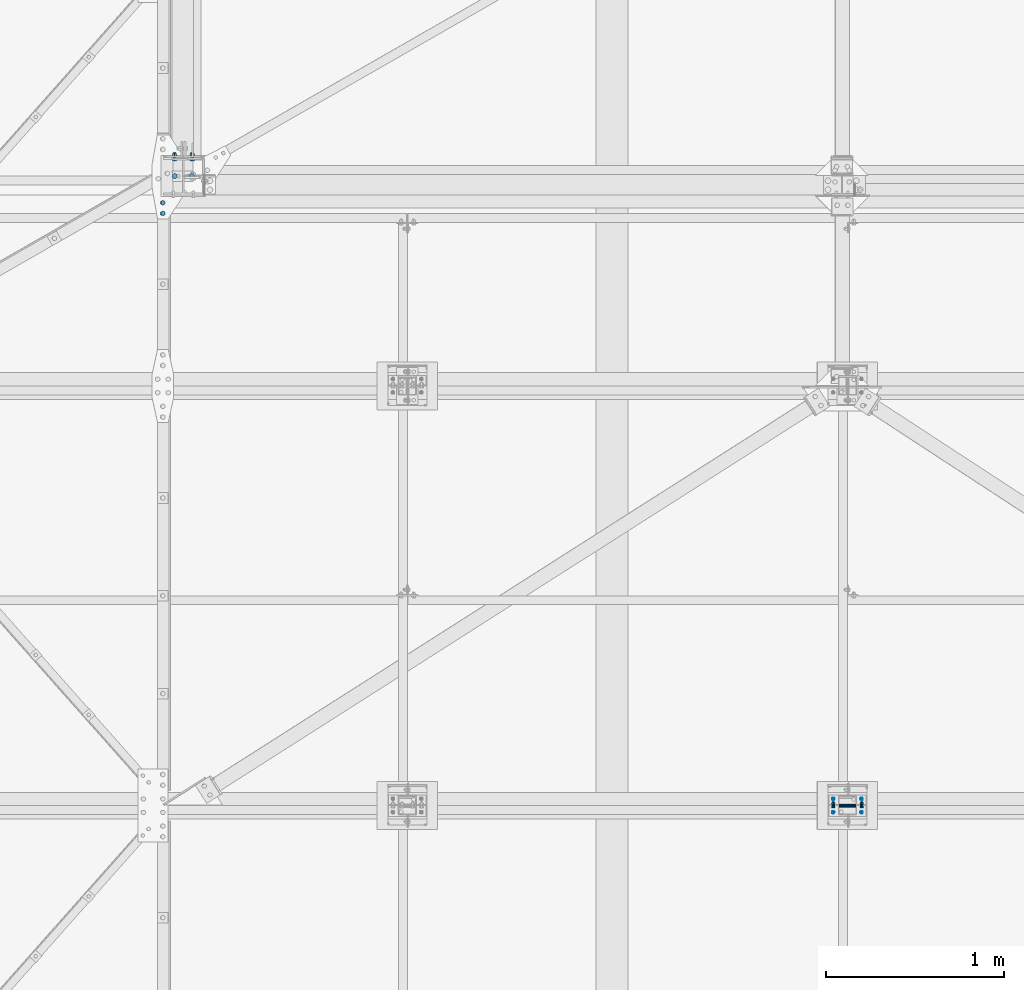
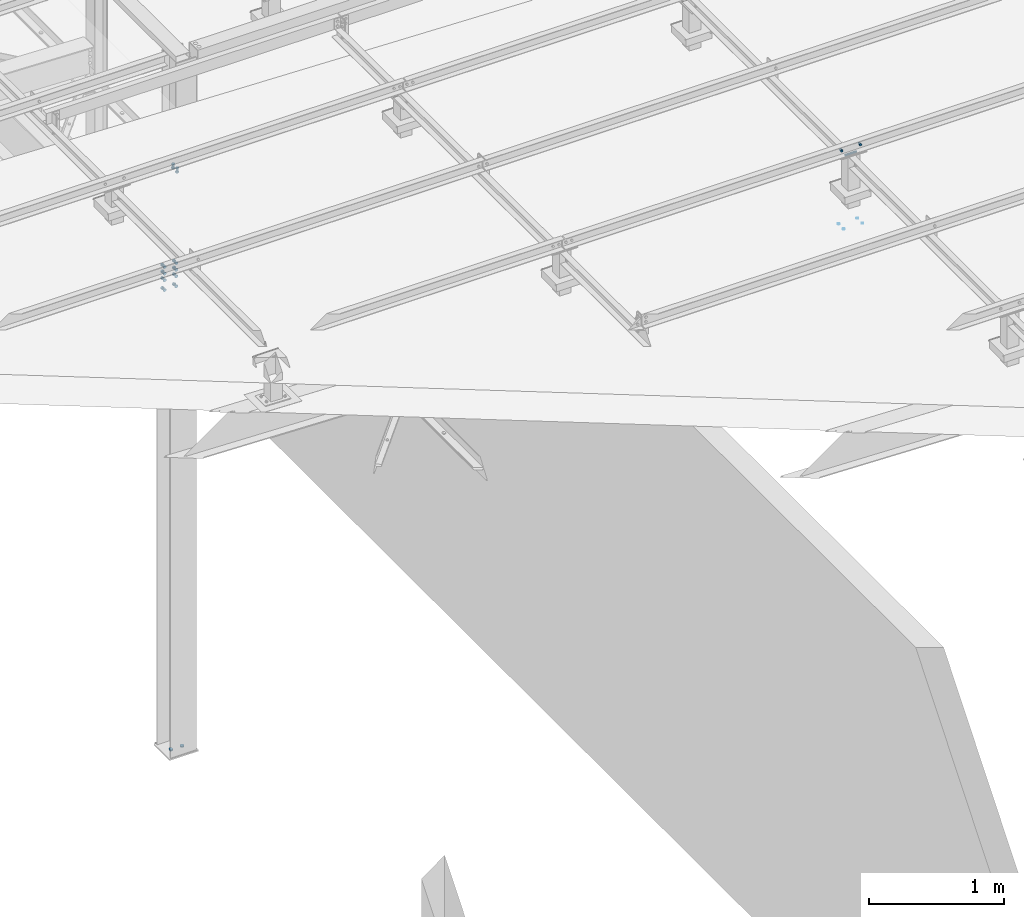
# One storey, part 335 of 3134: 7 mechanical fasteners, 5 elements without a shape of their own.
"""IFC2X3 building model written with IfcOpenShell, lengths in millimetres."""

from ifc_helpers import new_model, si_unit, frame, origin_with_axes, place, context, subcontext, project, spatial, faceted_brep, source, transform, mapped, material, type_object, element, aggregate, save


model = new_model("IFC2X3")

# Units and contexts
model_context = context("Model", 3, precision=1e-05, world=origin_with_axes())
body_context = subcontext(model_context, "Body", "Model", "MODEL_VIEW")
ifc_project = project(units=[si_unit("LENGTHUNIT", "METRE", prefix="MILLI"), si_unit("AREAUNIT", "SQUARE_METRE"), si_unit("VOLUMEUNIT", "CUBIC_METRE"), si_unit("MASSUNIT", "GRAM", prefix="KILO"), si_unit("TIMEUNIT", "SECOND"), si_unit("PLANEANGLEUNIT", "RADIAN"), si_unit("SOLIDANGLEUNIT", "STERADIAN"), si_unit("THERMODYNAMICTEMPERATUREUNIT", "DEGREE_CELSIUS"), si_unit("LUMINOUSINTENSITYUNIT", "LUMEN")], contexts=[model_context])

# Site, building, storey
site_placement = place(None, origin_with_axes())
site = spatial("IfcSite", under=ifc_project, at=site_placement, CompositionType="ELEMENT")
building_placement = place(site_placement, origin_with_axes())
building = spatial("IfcBuilding", under=site, at=building_placement, Name="Undefined", CompositionType="ELEMENT")
storey_placement = place(building_placement, origin_with_axes())
storey = spatial("IfcBuildingStorey", under=building, at=storey_placement, Name="Undefined", CompositionType="ELEMENT", Elevation=0.0)

# Assembly, mechanical fastener
assembly_1_placement = place(storey_placement, origin_with_axes())
assembly_1 = element("IfcElementAssembly", 1, at=assembly_1_placement, inside=storey, Name="HEA220", AssemblyPlace="NOTDEFINED", PredefinedType="RIGID_FRAME")
ifc_material = material(Name="8.8")
mechanical_fastener_type = type_object("IfcMechanicalFastenerType", Name="Bolt assembly")
shared_shape_1 = source(origin_with_axes(), body_context, "Body", "Brep", [
    faceted_brep([(13.0, 0.0, 0.0), (11.2583302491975, 0.0, 6.50000000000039), (6.49999999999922, 0.0, 11.2583302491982), (-1.34723677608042e-12, 0.0, 13.0), (-6.50000000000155, 0.0, 11.2583302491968), (-11.2583302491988, 0.0, 6.49999999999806), (-13.0, 0.0, -2.69447355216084e-12), (-11.2583302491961, 0.0, -6.50000000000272), (-6.4999999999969, 0.0, -11.2583302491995), (4.02727742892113e-12, 0.0, -13.0), (6.50000000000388, 0.0, -11.2583302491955), (11.2583302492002, 0.0, -6.49999999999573), (11.2583302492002, 12.1, -6.49999999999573), (6.50000000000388, 12.1, -11.2583302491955), (4.02727742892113e-12, 12.1, -13.0), (-6.4999999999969, 12.1, -11.2583302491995), (-11.2583302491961, 12.1, -6.50000000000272), (-13.0, 12.1, -2.69447355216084e-12), (-11.2583302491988, 12.1, 6.49999999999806), (-6.50000000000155, 12.1, 11.2583302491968), (-1.34723677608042e-12, 12.1, 13.0), (6.49999999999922, 12.1, 11.2583302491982), (11.2583302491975, 12.1, 6.50000000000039), (13.0, 12.1, 0.0)], [[[0, 1, 2, 3, 4, 5, 6, 7, 8, 9, 10, 11]], [[12, 13, 14, 15, 16, 17, 18, 19, 20, 21, 22, 23]], [[0, 23, 22, 1]], [[1, 22, 21, 2]], [[2, 21, 20, 3]], [[3, 20, 19, 4]], [[4, 19, 18, 5]], [[5, 18, 17, 6]], [[6, 17, 16, 7]], [[7, 16, 15, 8]], [[8, 15, 14, 9]], [[9, 14, 13, 10]], [[10, 13, 12, 11]], [[11, 12, 23, 0]]]),
])
mechanical_fastener_1_placement = place(assembly_1_placement, frame((71815.0, 13550.0, -400.0), z_axis=(1.0, 0.0, 0.0), x_axis=(0.0, 1.0, 0.0)))
mechanical_fastener_1 = element("IfcMechanicalFastener", 2, at=mechanical_fastener_1_placement, type_object=mechanical_fastener_type, material=ifc_material, Name="Bolt assembly", NominalDiameter=24.0, NominalLength=12.0, context=body_context, shape_type="MappedRepresentation", body=[
    mapped(shared_shape_1, transform((0.0, 0.0, -48.0))),
    mapped(shared_shape_1, transform((0.0, 0.0, 48.0))),
])

assembly_2_placement = place(storey_placement, origin_with_axes())
assembly_2 = element("IfcElementAssembly", 3, at=assembly_2_placement, inside=storey, AssemblyPlace="NOTDEFINED", PredefinedType="RIGID_FRAME")
shared_shape_2 = source(origin_with_axes(), body_context, "Body", "Brep", [
    faceted_brep([(7.0, 13.0000253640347, 0.0), (6.06217782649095, 13.0000253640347, 3.50000000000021), (3.49999999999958, 13.0000253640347, 6.06217782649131), (-7.25435187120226e-13, 13.0000253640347, 7.0), (-3.50000000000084, 13.0000253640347, 6.06217782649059), (-6.06217782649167, 13.0000253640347, 3.49999999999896), (-7.0, 13.0000253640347, -1.45087037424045e-12), (-6.06217782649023, 13.0000253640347, -3.50000000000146), (-3.49999999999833, 13.0000253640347, -6.06217782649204), (2.1685340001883e-12, 13.0000253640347, -7.0), (3.50000000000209, 13.0000253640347, -6.06217782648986), (6.0621778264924, 13.0000253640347, -3.4999999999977), (6.0621778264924, 15.0999999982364, -3.4999999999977), (3.50000000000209, 15.0999999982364, -6.06217782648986), (2.1685340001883e-12, 15.0999999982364, -7.0), (-3.49999999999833, 15.0999999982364, -6.06217782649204), (-6.06217782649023, 15.0999999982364, -3.50000000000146), (-7.0, 15.0999999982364, -1.45087037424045e-12), (-6.06217782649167, 15.0999999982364, 3.49999999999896), (-3.50000000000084, 15.0999999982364, 6.06217782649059), (-7.25435187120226e-13, 15.0999999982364, 7.0), (3.49999999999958, 15.0999999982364, 6.06217782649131), (6.06217782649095, 15.0999999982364, 3.50000000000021), (7.0, 15.0999999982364, 0.0)], [[[0, 1, 2, 3, 4, 5, 6, 7, 8, 9, 10, 11]], [[12, 13, 14, 15, 16, 17, 18, 19, 20, 21, 22, 23]], [[0, 23, 22, 1]], [[1, 22, 21, 2]], [[2, 21, 20, 3]], [[3, 20, 19, 4]], [[4, 19, 18, 5]], [[5, 18, 17, 6]], [[6, 17, 16, 7]], [[7, 16, 15, 8]], [[8, 15, 14, 9]], [[9, 14, 13, 10]], [[10, 13, 12, 11]], [[11, 12, 23, 0]]]),
])
mechanical_fastener_2_placement = place(assembly_2_placement, frame((75549.3451187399, 10048.0, 5179.0072055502), z_axis=(-0.99951962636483, 0.0, 0.0309922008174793), x_axis=(0.0, -1.0, 0.0)))
mechanical_fastener_2 = element("IfcMechanicalFastener", 4, at=mechanical_fastener_2_placement, type_object=mechanical_fastener_type, material=ifc_material, Name="Bolt assembly", NominalDiameter=12.0, NominalLength=2.0, context=body_context, shape_type="MappedRepresentation", body=[
    mapped(shared_shape_2, transform((0.0, -5.32963895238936e-10, -79.9999999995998))),
    mapped(shared_shape_2, transform((76.0, -5.32963895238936e-10, -79.9999999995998))),
    mapped(shared_shape_2, transform((0.0, 5.3114490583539e-10, 79.9999999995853))),
    mapped(shared_shape_2, transform((76.0, 5.3114490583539e-10, 79.9999999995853))),
])
aggregate(assembly_2, [mechanical_fastener_2])

assembly_3_placement = place(storey_placement, origin_with_axes())
assembly_3 = element("IfcElementAssembly", 5, at=assembly_3_placement, inside=storey, AssemblyPlace="NOTDEFINED", PredefinedType="RIGID_FRAME")
shared_shape_3 = source(origin_with_axes(), body_context, "Body", "Brep", [
    faceted_brep([(9.0, -50.0, 0.0), (7.79422863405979, -50.0, 4.50000000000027), (4.49999999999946, -50.0, 7.79422863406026), (-9.3270238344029e-13, -50.0, 9.0), (-4.50000000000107, -50.0, 7.79422863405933), (-7.79422863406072, -50.0, 4.49999999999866), (-9.0, -50.0, -1.86540476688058e-12), (-7.79422863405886, -50.0, -4.50000000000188), (-4.49999999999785, -50.0, -7.79422863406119), (2.78811514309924e-12, -50.0, -9.0), (4.50000000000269, -50.0, -7.7942286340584), (7.79422863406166, -50.0, -4.49999999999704), (7.79422863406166, 50.1, -4.49999999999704), (4.50000000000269, 50.1, -7.7942286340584), (2.78811514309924e-12, 50.1, -9.0), (-4.49999999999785, 50.1, -7.79422863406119), (-7.79422863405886, 50.1, -4.50000000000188), (-9.0, 50.1, -1.86540476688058e-12), (-7.79422863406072, 50.1, 4.49999999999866), (-4.50000000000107, 50.1, 7.79422863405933), (-9.3270238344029e-13, 50.1, 9.0), (4.49999999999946, 50.1, 7.79422863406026), (7.79422863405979, 50.1, 4.50000000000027), (9.0, 50.1, 0.0)], [[[0, 1, 2, 3, 4, 5, 6, 7, 8, 9, 10, 11]], [[12, 13, 14, 15, 16, 17, 18, 19, 20, 21, 22, 23]], [[0, 23, 22, 1]], [[1, 22, 21, 2]], [[2, 21, 20, 3]], [[3, 20, 19, 4]], [[4, 19, 18, 5]], [[5, 18, 17, 6]], [[6, 17, 16, 7]], [[7, 16, 15, 8]], [[8, 15, 14, 9]], [[9, 14, 13, 10]], [[10, 13, 12, 11]], [[11, 12, 23, 0]]]),
])
mechanical_fastener_3_placement = place(assembly_3_placement, frame((75550.0, 10010.0, 5830.0), z_axis=(0.0, 1.0, 0.0), x_axis=(0.0, 0.0, 1.0)))
mechanical_fastener_3 = element("IfcMechanicalFastener", 6, at=mechanical_fastener_3_placement, type_object=mechanical_fastener_type, material=ifc_material, Name="Bolt assembly", NominalDiameter=16.0, NominalLength=100.0, context=body_context, shape_type="MappedRepresentation", body=[
    mapped(shared_shape_3, transform((0.0, 0.0, 0.0))),
])
aggregate(assembly_3, [mechanical_fastener_3])

assembly_4_placement = place(storey_placement, origin_with_axes())
assembly_4 = element("IfcElementAssembly", 7, at=assembly_4_placement, inside=storey, AssemblyPlace="NOTDEFINED", PredefinedType="RIGID_FRAME")
shared_shape_4 = source(origin_with_axes(), body_context, "Body", "Brep", [
    faceted_brep([(10.9696551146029, -12.0, 0.0), (5.48482755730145, -12.0, 9.5), (-5.48482755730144, -12.0, 9.5), (-10.9696551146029, -12.0, 1.34339530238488e-15), (-5.48482755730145, -12.0, -9.5), (5.48482755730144, -12.0, -9.50000000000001), (5.48482755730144, -4.0, -9.50000000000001), (-5.48482755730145, -4.0, -9.5), (-10.9696551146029, -4.0, 1.34339530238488e-15), (-5.48482755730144, -4.0, 9.5), (5.48482755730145, -4.0, 9.5), (10.9696551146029, -4.0, 0.0), (6.0, -4.0, 0.0), (5.19615242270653, -4.0, 3.00000000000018), (2.99999999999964, -4.0, 5.19615242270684), (-6.21801588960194e-13, -4.0, 6.0), (-3.00000000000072, -4.0, 5.19615242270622), (-5.19615242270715, -4.0, 2.9999999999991), (-6.0, -4.0, -1.24360317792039e-12), (-5.19615242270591, -4.0, -3.00000000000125), (-2.99999999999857, -4.0, -5.19615242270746), (1.85874342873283e-12, -4.0, -6.0), (3.00000000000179, -4.0, -5.1961524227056), (5.19615242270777, -4.0, -2.99999999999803), (5.19615242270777, 21.0, -2.99999999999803), (3.00000000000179, 21.0, -5.1961524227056), (1.85874342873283e-12, 21.0, -6.0), (-2.99999999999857, 21.0, -5.19615242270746), (-5.19615242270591, 21.0, -3.00000000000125), (-6.0, 21.0, -1.24360317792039e-12), (-5.19615242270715, 21.0, 2.9999999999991), (-3.00000000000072, 21.0, 5.19615242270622), (-6.21801588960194e-13, 21.0, 6.0), (2.99999999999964, 21.0, 5.19615242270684), (5.19615242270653, 21.0, 3.00000000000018), (6.0, 21.0, 0.0), (10.9696551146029, 6.00000000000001, 0.0), (5.48482755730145, 6.00000000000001, 9.5), (-5.48482755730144, 6.00000000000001, 9.5), (-10.9696551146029, 6.00000000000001, 1.34339530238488e-15), (-5.48482755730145, 6.00000000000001, -9.5), (5.48482755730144, 6.00000000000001, -9.50000000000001), (5.48482755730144, 16.0, -9.50000000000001), (-5.48482755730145, 16.0, -9.5), (-10.9696551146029, 16.0, 1.34339530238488e-15), (-5.48482755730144, 16.0, 9.5), (5.48482755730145, 16.0, 9.5), (10.9696551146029, 16.0, 0.0)], [[[0, 1, 2, 3, 4, 5]], [[6, 7, 8, 9, 10, 11]], [[0, 11, 10, 1]], [[1, 10, 9, 2]], [[2, 9, 8, 3]], [[3, 8, 7, 4]], [[4, 7, 6, 5]], [[5, 6, 11, 0]], [[12, 13, 14, 15, 16, 17, 18, 19, 20, 21, 22, 23]], [[24, 25, 26, 27, 28, 29, 30, 31, 32, 33, 34, 35]], [[12, 35, 34, 13]], [[13, 34, 33, 14]], [[14, 33, 32, 15]], [[15, 32, 31, 16]], [[16, 31, 30, 17]], [[17, 30, 29, 18]], [[18, 29, 28, 19]], [[19, 28, 27, 20]], [[20, 27, 26, 21]], [[21, 26, 25, 22]], [[22, 25, 24, 23]], [[23, 24, 35, 12]], [[36, 37, 38, 39, 40, 41]], [[42, 43, 44, 45, 46, 47]], [[36, 47, 46, 37]], [[37, 46, 45, 38]], [[38, 45, 44, 39]], [[39, 44, 43, 40]], [[40, 43, 42, 41]], [[41, 42, 47, 36]]]),
    faceted_brep([(7.0, -3.9, 0.0), (6.06217782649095, -3.9, 3.50000000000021), (3.49999999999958, -3.9, 6.06217782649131), (-7.25435187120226e-13, -3.9, 7.0), (-3.50000000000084, -3.9, 6.06217782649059), (-6.06217782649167, -3.9, 3.49999999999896), (-7.0, -3.9, -1.45087037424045e-12), (-6.06217782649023, -3.9, -3.50000000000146), (-3.49999999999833, -3.9, -6.06217782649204), (2.1685340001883e-12, -3.9, -7.0), (3.50000000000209, -3.9, -6.06217782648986), (6.0621778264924, -3.9, -3.4999999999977), (6.0621778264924, 0.0999999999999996, -3.4999999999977), (3.50000000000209, 0.0999999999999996, -6.06217782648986), (2.1685340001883e-12, 0.0999999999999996, -7.0), (-3.49999999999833, 0.0999999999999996, -6.06217782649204), (-6.06217782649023, 0.0999999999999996, -3.50000000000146), (-7.0, 0.0999999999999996, -1.45087037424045e-12), (-6.06217782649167, 0.0999999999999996, 3.49999999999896), (-3.50000000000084, 0.0999999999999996, 6.06217782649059), (-7.25435187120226e-13, 0.0999999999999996, 7.0), (3.49999999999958, 0.0999999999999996, 6.06217782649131), (6.06217782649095, 0.0999999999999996, 3.50000000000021), (7.0, 0.0999999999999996, 0.0), (7.0, -0.1, 0.0), (6.06217782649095, -0.1, 3.50000000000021), (3.49999999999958, -0.1, 6.06217782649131), (-7.25435187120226e-13, -0.1, 7.0), (-3.50000000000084, -0.1, 6.06217782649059), (-6.06217782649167, -0.1, 3.49999999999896), (-7.0, -0.1, -1.45087037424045e-12), (-6.06217782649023, -0.1, -3.50000000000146), (-3.49999999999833, -0.1, -6.06217782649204), (2.1685340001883e-12, -0.1, -7.0), (3.50000000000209, -0.1, -6.06217782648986), (6.0621778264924, -0.1, -3.4999999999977), (6.0621778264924, 6.00000000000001, -3.4999999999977), (3.50000000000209, 6.00000000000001, -6.06217782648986), (2.1685340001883e-12, 6.00000000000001, -7.0), (-3.49999999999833, 6.00000000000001, -6.06217782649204), (-6.06217782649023, 6.00000000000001, -3.50000000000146), (-7.0, 6.00000000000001, -1.45087037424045e-12), (-6.06217782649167, 6.00000000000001, 3.49999999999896), (-3.50000000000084, 6.00000000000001, 6.06217782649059), (-7.25435187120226e-13, 6.00000000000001, 7.0), (3.49999999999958, 6.00000000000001, 6.06217782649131), (6.06217782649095, 6.00000000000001, 3.50000000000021), (7.0, 6.00000000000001, 0.0)], [[[0, 1, 2, 3, 4, 5, 6, 7, 8, 9, 10, 11]], [[12, 13, 14, 15, 16, 17, 18, 19, 20, 21, 22, 23]], [[0, 23, 22, 1]], [[1, 22, 21, 2]], [[2, 21, 20, 3]], [[3, 20, 19, 4]], [[4, 19, 18, 5]], [[5, 18, 17, 6]], [[6, 17, 16, 7]], [[7, 16, 15, 8]], [[8, 15, 14, 9]], [[9, 14, 13, 10]], [[10, 13, 12, 11]], [[11, 12, 23, 0]], [[24, 25, 26, 27, 28, 29, 30, 31, 32, 33, 34, 35]], [[36, 37, 38, 39, 40, 41, 42, 43, 44, 45, 46, 47]], [[24, 47, 46, 25]], [[25, 46, 45, 26]], [[26, 45, 44, 27]], [[27, 44, 43, 28]], [[28, 43, 42, 29]], [[29, 42, 41, 30]], [[30, 41, 40, 31]], [[31, 40, 39, 32]], [[32, 39, 38, 33]], [[33, 38, 37, 34]], [[34, 37, 36, 35]], [[35, 36, 47, 24]]]),
])
mechanical_fastener_4_placement = place(assembly_4_placement, frame((75550.0, 10010.0, 5885.0), z_axis=(1.0, 0.0, 0.0), x_axis=(0.0, 0.0, -1.0)))
mechanical_fastener_4 = element("IfcMechanicalFastener", 8, at=mechanical_fastener_4_placement, type_object=mechanical_fastener_type, material=ifc_material, Name="Bolt assembly", NominalDiameter=12.0, NominalLength=25.0, context=body_context, shape_type="MappedRepresentation", body=[
    mapped(shared_shape_4, transform((0.0, -5.32963895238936e-10, -79.9999999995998))),
    mapped(shared_shape_4, transform((0.0, 5.3114490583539e-10, 79.9999999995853))),
])
aggregate(assembly_4, [mechanical_fastener_4])

# Mechanical fastener
shared_shape_5 = source(origin_with_axes(), body_context, "Body", "Brep", [
    faceted_brep([(13.856406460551, -21.0000017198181, 0.0), (6.92820323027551, -21.0000017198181, 12.0), (-6.92820323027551, -21.0000017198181, 12.0), (-13.856406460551, -21.0000017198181, 1.69692038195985e-15), (-6.92820323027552, -21.0000017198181, -12.0), (6.9282032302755, -21.0000017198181, -12.0), (6.9282032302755, -11.0000017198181, -12.0), (-6.92820323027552, -11.0000017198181, -12.0), (-13.856406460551, -11.0000017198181, 1.69692038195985e-15), (-6.92820323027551, -11.0000017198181, 12.0), (6.92820323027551, -11.0000017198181, 12.0), (13.856406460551, -11.0000017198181, 0.0), (8.0, -11.0000017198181, 0.0), (6.92820323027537, -11.0000017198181, 4.00000000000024), (3.99999999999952, -11.0000017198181, 6.92820323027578), (-8.29068785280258e-13, -11.0000017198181, 8.0), (-4.00000000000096, -11.0000017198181, 6.92820323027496), (-6.9282032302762, -11.0000017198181, 3.99999999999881), (-8.0, -11.0000017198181, -1.65813757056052e-12), (-6.92820323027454, -11.0000017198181, -4.00000000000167), (-3.99999999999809, -11.0000017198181, -6.92820323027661), (2.47832457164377e-12, -11.0000017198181, -8.0), (4.00000000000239, -11.0000017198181, -6.92820323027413), (6.92820323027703, -11.0000017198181, -3.99999999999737), (6.92820323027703, 29.0, -3.99999999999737), (4.00000000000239, 29.0, -6.92820323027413), (2.47832457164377e-12, 29.0, -8.0), (-3.99999999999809, 29.0, -6.92820323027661), (-6.92820323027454, 29.0, -4.00000000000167), (-8.0, 29.0, -1.65813757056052e-12), (-6.9282032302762, 29.0, 3.99999999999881), (-4.00000000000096, 29.0, 6.92820323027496), (-8.29068785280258e-13, 29.0, 8.0), (3.99999999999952, 29.0, 6.92820323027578), (6.92820323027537, 29.0, 4.00000000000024), (8.0, 29.0, 0.0), (13.856406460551, 9.00000000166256, 0.0), (6.92820323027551, 9.00000000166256, 12.0), (-6.92820323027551, 9.00000000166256, 12.0), (-13.856406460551, 9.00000000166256, 1.69692038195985e-15), (-6.92820323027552, 9.00000000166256, -12.0), (6.9282032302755, 9.00000000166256, -12.0), (6.9282032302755, 22.0, -12.0), (-6.92820323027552, 22.0, -12.0), (-13.856406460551, 22.0, 1.69692038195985e-15), (-6.92820323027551, 22.0, 12.0), (6.92820323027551, 22.0, 12.0), (13.856406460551, 22.0, 0.0)], [[[0, 1, 2, 3, 4, 5]], [[6, 7, 8, 9, 10, 11]], [[0, 11, 10, 1]], [[1, 10, 9, 2]], [[2, 9, 8, 3]], [[3, 8, 7, 4]], [[4, 7, 6, 5]], [[5, 6, 11, 0]], [[12, 13, 14, 15, 16, 17, 18, 19, 20, 21, 22, 23]], [[24, 25, 26, 27, 28, 29, 30, 31, 32, 33, 34, 35]], [[12, 35, 34, 13]], [[13, 34, 33, 14]], [[14, 33, 32, 15]], [[15, 32, 31, 16]], [[16, 31, 30, 17]], [[17, 30, 29, 18]], [[18, 29, 28, 19]], [[19, 28, 27, 20]], [[20, 27, 26, 21]], [[21, 26, 25, 22]], [[22, 25, 24, 23]], [[23, 24, 35, 12]], [[36, 37, 38, 39, 40, 41]], [[42, 43, 44, 45, 46, 47]], [[36, 47, 46, 37]], [[37, 46, 45, 38]], [[38, 45, 44, 39]], [[39, 44, 43, 40]], [[40, 43, 42, 41]], [[41, 42, 47, 36]]]),
    faceted_brep([(9.0, -0.1, 0.0), (7.79422863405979, -0.1, 4.50000000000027), (4.49999999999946, -0.1, 7.79422863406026), (-9.3270238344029e-13, -0.1, 9.0), (-4.50000000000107, -0.1, 7.79422863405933), (-7.79422863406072, -0.1, 4.49999999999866), (-9.0, -0.1, -1.86540476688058e-12), (-7.79422863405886, -0.1, -4.50000000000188), (-4.49999999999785, -0.1, -7.79422863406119), (2.78811514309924e-12, -0.1, -9.0), (4.50000000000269, -0.1, -7.7942286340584), (7.79422863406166, -0.1, -4.49999999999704), (7.79422863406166, 9.00000000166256, -4.49999999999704), (4.50000000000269, 9.00000000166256, -7.7942286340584), (2.78811514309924e-12, 9.00000000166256, -9.0), (-4.49999999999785, 9.00000000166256, -7.79422863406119), (-7.79422863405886, 9.00000000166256, -4.50000000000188), (-9.0, 9.00000000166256, -1.86540476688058e-12), (-7.79422863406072, 9.00000000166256, 4.49999999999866), (-4.50000000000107, 9.00000000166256, 7.79422863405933), (-9.3270238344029e-13, 9.00000000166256, 9.0), (4.49999999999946, 9.00000000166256, 7.79422863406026), (7.79422863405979, 9.00000000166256, 4.50000000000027), (9.0, 9.00000000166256, 0.0), (9.0, -10.9000017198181, 0.0), (7.79422863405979, -10.9000017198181, 4.50000000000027), (4.49999999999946, -10.9000017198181, 7.79422863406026), (-9.3270238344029e-13, -10.9000017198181, 9.0), (-4.50000000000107, -10.9000017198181, 7.79422863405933), (-7.79422863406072, -10.9000017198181, 4.49999999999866), (-9.0, -10.9000017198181, -1.86540476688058e-12), (-7.79422863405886, -10.9000017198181, -4.50000000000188), (-4.49999999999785, -10.9000017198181, -7.79422863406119), (2.78811514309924e-12, -10.9000017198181, -9.0), (4.50000000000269, -10.9000017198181, -7.7942286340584), (7.79422863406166, -10.9000017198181, -4.49999999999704), (7.79422863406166, 0.100000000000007, -4.49999999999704), (4.50000000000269, 0.100000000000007, -7.7942286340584), (2.78811514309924e-12, 0.100000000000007, -9.0), (-4.49999999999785, 0.100000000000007, -7.79422863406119), (-7.79422863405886, 0.100000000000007, -4.50000000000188), (-9.0, 0.100000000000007, -1.86540476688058e-12), (-7.79422863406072, 0.100000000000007, 4.49999999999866), (-4.50000000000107, 0.100000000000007, 7.79422863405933), (-9.3270238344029e-13, 0.100000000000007, 9.0), (4.49999999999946, 0.100000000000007, 7.79422863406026), (7.79422863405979, 0.100000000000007, 4.50000000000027), (9.0, 0.100000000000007, 0.0)], [[[0, 1, 2, 3, 4, 5, 6, 7, 8, 9, 10, 11]], [[12, 13, 14, 15, 16, 17, 18, 19, 20, 21, 22, 23]], [[0, 23, 22, 1]], [[1, 22, 21, 2]], [[2, 21, 20, 3]], [[3, 20, 19, 4]], [[4, 19, 18, 5]], [[5, 18, 17, 6]], [[6, 17, 16, 7]], [[7, 16, 15, 8]], [[8, 15, 14, 9]], [[9, 14, 13, 10]], [[10, 13, 12, 11]], [[11, 12, 23, 0]], [[24, 25, 26, 27, 28, 29, 30, 31, 32, 33, 34, 35]], [[36, 37, 38, 39, 40, 41, 42, 43, 44, 45, 46, 47]], [[24, 47, 46, 25]], [[25, 46, 45, 26]], [[26, 45, 44, 27]], [[27, 44, 43, 28]], [[28, 43, 42, 29]], [[29, 42, 41, 30]], [[30, 41, 40, 31]], [[31, 40, 39, 32]], [[32, 39, 38, 33]], [[33, 38, 37, 34]], [[34, 37, 36, 35]], [[35, 36, 47, 24]]]),
])
mechanical_fastener_5_placement = place(assembly_1_placement, frame((71864.999999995, 13655.0000000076, 3925.0), z_axis=(1.0, 0.0, 0.0), x_axis=(0.0, 0.0, -1.0)))
mechanical_fastener_5 = element("IfcMechanicalFastener", 9, at=mechanical_fastener_5_placement, type_object=mechanical_fastener_type, material=ifc_material, Name="Bolt assembly", NominalDiameter=16.0, NominalLength=40.0, context=body_context, shape_type="MappedRepresentation", body=[
    mapped(shared_shape_5, transform((0.0, 0.0, 0.0))),
    mapped(shared_shape_5, transform((59.9999999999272, 0.0, 5.40239852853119e-10))),
    mapped(shared_shape_5, transform((120.0, 0.0, 0.0))),
    mapped(shared_shape_5, transform((210.0, 0.0, 0.0))),
])

mechanical_fastener_6_placement = place(assembly_1_placement, frame((71764.999999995, 13655.0000000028, 3925.0), z_axis=(1.0, 0.0, 0.0), x_axis=(0.0, 0.0, -1.0)))
mechanical_fastener_6 = element("IfcMechanicalFastener", 10, at=mechanical_fastener_6_placement, type_object=mechanical_fastener_type, material=ifc_material, Name="Bolt assembly", NominalDiameter=16.0, NominalLength=40.0, context=body_context, shape_type="MappedRepresentation", body=[
    mapped(shared_shape_5, transform((0.0, 0.0, 0.0))),
    mapped(shared_shape_5, transform((59.9999999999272, 0.0, 5.40239852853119e-10))),
    mapped(shared_shape_5, transform((120.0, 0.0, 0.0))),
    mapped(shared_shape_5, transform((210.0, 0.0, 0.0))),
])

aggregate(assembly_1, [mechanical_fastener_5, mechanical_fastener_6, mechanical_fastener_1])

# Assembly, mechanical fastener
assembly_5_placement = place(storey_placement, origin_with_axes())
assembly_5 = element("IfcElementAssembly", 11, at=assembly_5_placement, inside=storey, AssemblyPlace="NOTDEFINED", PredefinedType="RIGID_FRAME")
shared_shape_6 = source(origin_with_axes(), body_context, "Body", "Brep", [
    faceted_brep([(13.856406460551, -21.0000017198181, 0.0), (6.92820323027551, -21.0000017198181, 12.0), (-6.92820323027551, -21.0000017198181, 12.0), (-13.856406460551, -21.0000017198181, 1.69692038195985e-15), (-6.92820323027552, -21.0000017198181, -12.0), (6.9282032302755, -21.0000017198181, -12.0), (6.9282032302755, -11.0000017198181, -12.0), (-6.92820323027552, -11.0000017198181, -12.0), (-13.856406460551, -11.0000017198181, 1.69692038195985e-15), (-6.92820323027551, -11.0000017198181, 12.0), (6.92820323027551, -11.0000017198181, 12.0), (13.856406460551, -11.0000017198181, 0.0), (8.0, -11.0000017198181, 0.0), (6.92820323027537, -11.0000017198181, 4.00000000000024), (3.99999999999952, -11.0000017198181, 6.92820323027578), (-8.29068785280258e-13, -11.0000017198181, 8.0), (-4.00000000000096, -11.0000017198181, 6.92820323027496), (-6.9282032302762, -11.0000017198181, 3.99999999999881), (-8.0, -11.0000017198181, -1.65813757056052e-12), (-6.92820323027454, -11.0000017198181, -4.00000000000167), (-3.99999999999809, -11.0000017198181, -6.92820323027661), (2.47832457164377e-12, -11.0000017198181, -8.0), (4.00000000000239, -11.0000017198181, -6.92820323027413), (6.92820323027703, -11.0000017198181, -3.99999999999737), (6.92820323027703, 29.0, -3.99999999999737), (4.00000000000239, 29.0, -6.92820323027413), (2.47832457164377e-12, 29.0, -8.0), (-3.99999999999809, 29.0, -6.92820323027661), (-6.92820323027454, 29.0, -4.00000000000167), (-8.0, 29.0, -1.65813757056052e-12), (-6.9282032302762, 29.0, 3.99999999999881), (-4.00000000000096, 29.0, 6.92820323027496), (-8.29068785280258e-13, 29.0, 8.0), (3.99999999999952, 29.0, 6.92820323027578), (6.92820323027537, 29.0, 4.00000000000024), (8.0, 29.0, 0.0), (13.856406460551, 10.9979999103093, 0.0), (6.92820323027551, 10.9979999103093, 12.0), (-6.92820323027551, 10.9979999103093, 12.0), (-13.856406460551, 10.9979999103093, 1.69692038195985e-15), (-6.92820323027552, 10.9979999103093, -12.0), (6.9282032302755, 10.9979999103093, -12.0), (6.9282032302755, 23.9979999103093, -12.0), (-6.92820323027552, 23.9979999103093, -12.0), (-13.856406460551, 23.9979999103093, 1.69692038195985e-15), (-6.92820323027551, 23.9979999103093, 12.0), (6.92820323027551, 23.9979999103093, 12.0), (13.856406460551, 23.9979999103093, 0.0)], [[[0, 1, 2, 3, 4, 5]], [[6, 7, 8, 9, 10, 11]], [[0, 11, 10, 1]], [[1, 10, 9, 2]], [[2, 9, 8, 3]], [[3, 8, 7, 4]], [[4, 7, 6, 5]], [[5, 6, 11, 0]], [[12, 13, 14, 15, 16, 17, 18, 19, 20, 21, 22, 23]], [[24, 25, 26, 27, 28, 29, 30, 31, 32, 33, 34, 35]], [[12, 35, 34, 13]], [[13, 34, 33, 14]], [[14, 33, 32, 15]], [[15, 32, 31, 16]], [[16, 31, 30, 17]], [[17, 30, 29, 18]], [[18, 29, 28, 19]], [[19, 28, 27, 20]], [[20, 27, 26, 21]], [[21, 26, 25, 22]], [[22, 25, 24, 23]], [[23, 24, 35, 12]], [[36, 37, 38, 39, 40, 41]], [[42, 43, 44, 45, 46, 47]], [[36, 47, 46, 37]], [[37, 46, 45, 38]], [[38, 45, 44, 39]], [[39, 44, 43, 40]], [[40, 43, 42, 41]], [[41, 42, 47, 36]]]),
    faceted_brep([(9.0, -10.9000017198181, 0.0), (7.79422863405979, -10.9000017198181, 4.50000000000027), (4.49999999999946, -10.9000017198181, 7.79422863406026), (-9.3270238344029e-13, -10.9000017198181, 9.0), (-4.50000000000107, -10.9000017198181, 7.79422863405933), (-7.79422863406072, -10.9000017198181, 4.49999999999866), (-9.0, -10.9000017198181, -1.86540476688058e-12), (-7.79422863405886, -10.9000017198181, -4.50000000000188), (-4.49999999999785, -10.9000017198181, -7.79422863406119), (2.78811514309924e-12, -10.9000017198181, -9.0), (4.50000000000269, -10.9000017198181, -7.7942286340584), (7.79422863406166, -10.9000017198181, -4.49999999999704), (7.79422863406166, -3.9, -4.49999999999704), (4.50000000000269, -3.9, -7.7942286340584), (2.78811514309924e-12, -3.9, -9.0), (-4.49999999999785, -3.9, -7.79422863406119), (-7.79422863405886, -3.9, -4.50000000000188), (-9.0, -3.9, -1.86540476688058e-12), (-7.79422863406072, -3.9, 4.49999999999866), (-4.50000000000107, -3.9, 7.79422863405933), (-9.3270238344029e-13, -3.9, 9.0), (4.49999999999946, -3.9, 7.79422863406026), (7.79422863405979, -3.9, 4.50000000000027), (9.0, -3.9, 0.0), (9.0, 3.89799991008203, 0.0), (7.79422863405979, 3.89799991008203, 4.50000000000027), (4.49999999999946, 3.89799991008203, 7.79422863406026), (-9.3270238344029e-13, 3.89799991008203, 9.0), (-4.50000000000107, 3.89799991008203, 7.79422863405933), (-7.79422863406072, 3.89799991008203, 4.49999999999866), (-9.0, 3.89799991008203, -1.86540476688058e-12), (-7.79422863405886, 3.89799991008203, -4.50000000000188), (-4.49999999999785, 3.89799991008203, -7.79422863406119), (2.78811514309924e-12, 3.89799991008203, -9.0), (4.50000000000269, 3.89799991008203, -7.7942286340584), (7.79422863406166, 3.89799991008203, -4.49999999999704), (7.79422863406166, 10.9979999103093, -4.49999999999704), (4.50000000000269, 10.9979999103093, -7.7942286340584), (2.78811514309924e-12, 10.9979999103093, -9.0), (-4.49999999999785, 10.9979999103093, -7.79422863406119), (-7.79422863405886, 10.9979999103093, -4.50000000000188), (-9.0, 10.9979999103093, -1.86540476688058e-12), (-7.79422863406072, 10.9979999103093, 4.49999999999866), (-4.50000000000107, 10.9979999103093, 7.79422863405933), (-9.3270238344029e-13, 10.9979999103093, 9.0), (4.49999999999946, 10.9979999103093, 7.79422863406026), (7.79422863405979, 10.9979999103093, 4.50000000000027), (9.0, 10.9979999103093, 0.0), (9.0, -3.99999624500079, 0.0), (7.79422863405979, -3.99999624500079, 4.50000000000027), (4.49999999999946, -3.99999624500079, 7.79422863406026), (-9.3270238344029e-13, -3.99999624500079, 9.0), (-4.50000000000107, -3.99999624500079, 7.79422863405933), (-7.79422863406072, -3.99999624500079, 4.49999999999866), (-9.0, -3.99999624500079, -1.86540476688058e-12), (-7.79422863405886, -3.99999624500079, -4.50000000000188), (-4.49999999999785, -3.99999624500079, -7.79422863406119), (2.78811514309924e-12, -3.99999624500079, -9.0), (4.50000000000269, -3.99999624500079, -7.7942286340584), (7.79422863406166, -3.99999624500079, -4.49999999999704), (7.79422863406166, 4.00000375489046, -4.49999999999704), (4.50000000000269, 4.00000375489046, -7.7942286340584), (2.78811514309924e-12, 4.00000375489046, -9.0), (-4.49999999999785, 4.00000375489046, -7.79422863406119), (-7.79422863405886, 4.00000375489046, -4.50000000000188), (-9.0, 4.00000375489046, -1.86540476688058e-12), (-7.79422863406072, 4.00000375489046, 4.49999999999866), (-4.50000000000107, 4.00000375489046, 7.79422863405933), (-9.3270238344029e-13, 4.00000375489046, 9.0), (4.49999999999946, 4.00000375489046, 7.79422863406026), (7.79422863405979, 4.00000375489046, 4.50000000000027), (9.0, 4.00000375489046, 0.0)], [[[0, 1, 2, 3, 4, 5, 6, 7, 8, 9, 10, 11]], [[12, 13, 14, 15, 16, 17, 18, 19, 20, 21, 22, 23]], [[0, 23, 22, 1]], [[1, 22, 21, 2]], [[2, 21, 20, 3]], [[3, 20, 19, 4]], [[4, 19, 18, 5]], [[5, 18, 17, 6]], [[6, 17, 16, 7]], [[7, 16, 15, 8]], [[8, 15, 14, 9]], [[9, 14, 13, 10]], [[10, 13, 12, 11]], [[11, 12, 23, 0]], [[24, 25, 26, 27, 28, 29, 30, 31, 32, 33, 34, 35]], [[36, 37, 38, 39, 40, 41, 42, 43, 44, 45, 46, 47]], [[24, 47, 46, 25]], [[25, 46, 45, 26]], [[26, 45, 44, 27]], [[27, 44, 43, 28]], [[28, 43, 42, 29]], [[29, 42, 41, 30]], [[30, 41, 40, 31]], [[31, 40, 39, 32]], [[32, 39, 38, 33]], [[33, 38, 37, 34]], [[34, 37, 36, 35]], [[35, 36, 47, 24]], [[48, 49, 50, 51, 52, 53, 54, 55, 56, 57, 58, 59]], [[60, 61, 62, 63, 64, 65, 66, 67, 68, 69, 70, 71]], [[48, 71, 70, 49]], [[49, 70, 69, 50]], [[50, 69, 68, 51]], [[51, 68, 67, 52]], [[52, 67, 66, 53]], [[53, 66, 65, 54]], [[54, 65, 64, 55]], [[55, 64, 63, 56]], [[56, 63, 62, 57]], [[57, 62, 61, 58]], [[58, 61, 60, 59]], [[59, 60, 71, 48]]]),
])
mechanical_fastener_7_placement = place(assembly_5_placement, frame((71700.0552170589, 13399.9997619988, 5010.20374992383), z_axis=(0.999519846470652, 0.0, -0.0309851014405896), x_axis=(0.0, -1.0, 0.0)))
mechanical_fastener_7 = element("IfcMechanicalFastener", 12, at=mechanical_fastener_7_placement, type_object=mechanical_fastener_type, material=ifc_material, Name="Bolt assembly", NominalDiameter=16.0, NominalLength=40.0, context=body_context, shape_type="MappedRepresentation", body=[
    mapped(shared_shape_6, transform((0.0, 0.0, 0.0))),
    mapped(shared_shape_6, transform((59.9999999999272, 0.0, 5.40239852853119e-10))),
])
aggregate(assembly_5, [mechanical_fastener_7])

save(model, "model.ifc")
